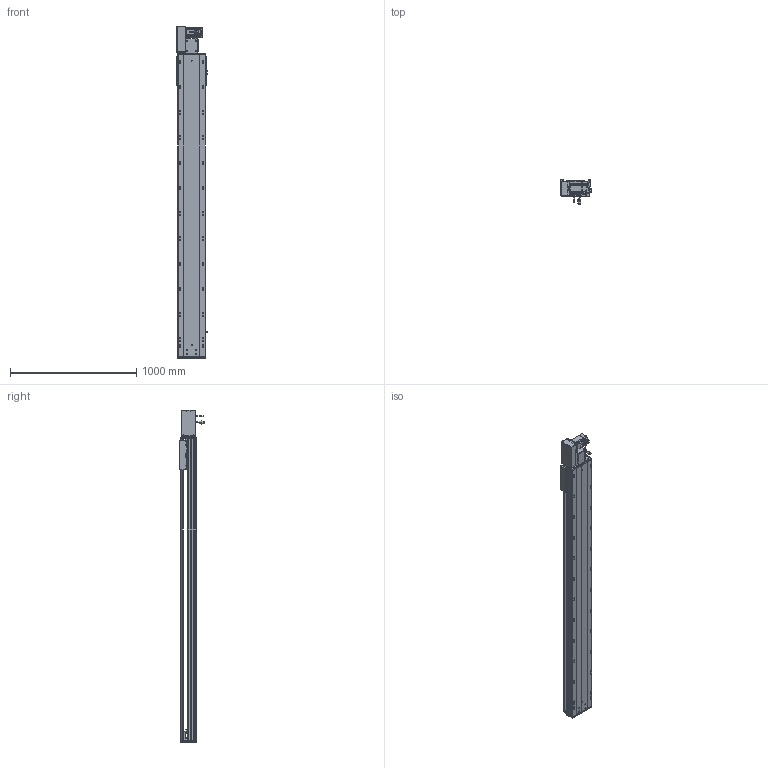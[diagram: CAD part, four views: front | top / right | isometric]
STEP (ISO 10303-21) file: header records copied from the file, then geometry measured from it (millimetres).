
FILE_DESCRIPTION (( 'STEP AP203' ), '1' );
FILE_NAME ('RY220-T-300-LK.SLDASM_2050.step', '2022-07-25T08:15:17', ( '' ), ( '' ), 'SwSTEP 2.0', 'SolidWorks 2016', '' );
FILE_SCHEMA (( 'CONFIG_CONTROL_DESIGN' ));
Length unit declared in the file: millimetre
Products named in the file (14): RY220-T-蛌殏萇儂假蚾啣(750W); RY220-T-300-奻裔啣_2050; 怢湛750W_ECMA-CX0807ES; RY220-同步轮副支撑座6304×2; RY220圉猾敕々湍臏賑輸; 覜茼ん672; RY220-T-湍謫欶(鍼踢); 滅袉蝶18-15; 110A-T-肮祭謫釱傷裔; RY220-T-300-LK.SLDASM_2050; RY220-俋离672覜茼んえ; RY220翋肮祭謫裔啣; RY220翋肮祭謫釱; RY220-T菁釱-300_2050
Assembly tree (18 placements, depth 2):
  RY220-T-300-LK.SLDASM_2050
    RY220-T菁釱-300_2050
    RY220翋肮祭謫釱
    覜茼ん672  x3
    RY220圉猾敕々湍臏賑輸
    RY220-T-300-奻裔啣_2050
    RY220-俋离672覜茼んえ
    滅袉蝶18-15  x3
    RY220翋肮祭謫裔啣  x2
    110A-T-肮祭謫釱傷裔
    怢湛750W_ECMA-CX0807ES
    RY220-T-湍謫欶(鍼踢)
    RY220-T-蛌殏萇儂假蚾啣(750W)
    RY220-同步轮副支撑座6304×2
Bounding box: 239.7 x 198.77 x 2629 mm (x, y, z)
Volume: 19052134.5 mm3; surface area: 5795792.9 mm2
Topology: 19 solids, 19 shells, 2844 faces, 7863 edges, 4952 vertices
Faces by surface type: cylinder 1376, plane 1069, cone 317, bspline 56, sphere 16, torus 10
Entity records: 94851 total; most frequent: CARTESIAN_POINT 26907, ORIENTED_EDGE 14074, DIRECTION 13468, EDGE_CURVE 7037, AXIS2_PLACEMENT_3D 4822, VERTEX_POINT 4576, VECTOR 3824, LINE 3824
